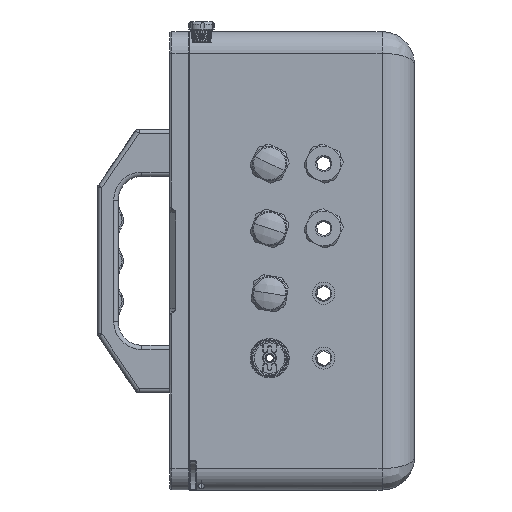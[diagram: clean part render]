
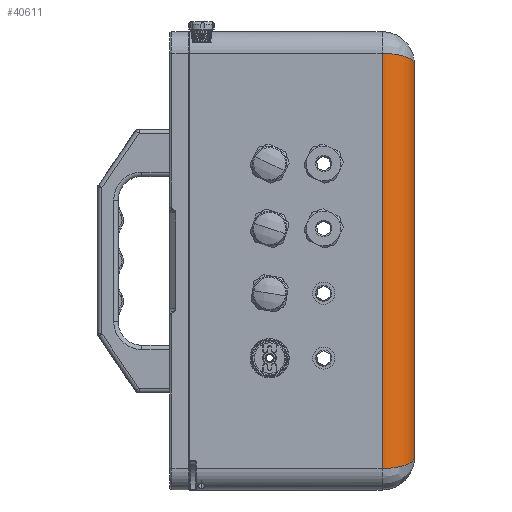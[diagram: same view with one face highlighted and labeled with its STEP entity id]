
A CAD part, left-side view. The second image highlights one B-rep face of the part: STEP entity #40611.
In plain terms, the highlighted cylindrical face has radius 15 mm (diameter 30 mm), a partial arc.
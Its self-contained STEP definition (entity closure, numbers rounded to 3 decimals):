
#17 = CARTESIAN_POINT ( 'NONE',  ( -161., -7., -96. ) ) ;
#572 = CARTESIAN_POINT ( 'NONE',  ( -161., -7., 0. ) ) ;
#1966 =( BOUNDED_CURVE ( )  B_SPLINE_CURVE ( 3, ( #40769, #5874, #50085, #17 ),
 .UNSPECIFIED., .F., .F. ) 
 B_SPLINE_CURVE_WITH_KNOTS ( ( 4, 4 ),
 ( 1.571, 3.142 ),
 .UNSPECIFIED. ) 
 CURVE ( )  GEOMETRIC_REPRESENTATION_ITEM ( )  RATIONAL_B_SPLINE_CURVE ( ( 1., 0.805, 0.805, 1. ) ) 
 REPRESENTATION_ITEM ( '' )  );
#2413 = VERTEX_POINT ( 'NONE', #56465 ) ;
#3876 = VECTOR ( 'NONE', #18520, 1000. ) ;
#4748 =( BOUNDED_CURVE ( )  B_SPLINE_CURVE ( 3, ( #27754, #32204, #36295, #31913 ),
 .UNSPECIFIED., .F., .F. ) 
 B_SPLINE_CURVE_WITH_KNOTS ( ( 4, 4 ),
 ( 1.571, 3.142 ),
 .UNSPECIFIED. ) 
 CURVE ( )  GEOMETRIC_REPRESENTATION_ITEM ( )  RATIONAL_B_SPLINE_CURVE ( ( 1., 0.805, 0.805, 1. ) ) 
 REPRESENTATION_ITEM ( '' )  );
#5874 = CARTESIAN_POINT ( 'NONE',  ( -154.787, -22., -93.929 ) ) ;
#8312 = VECTOR ( 'NONE', #23832, 1000. ) ;
#8409 = FACE_OUTER_BOUND ( 'NONE', #45392, .T. ) ;
#9679 = LINE ( 'NONE', #572, #3876 ) ;
#10357 = CARTESIAN_POINT ( 'NONE',  ( -161., -7., 96. ) ) ;
#13689 = VERTEX_POINT ( 'NONE', #57208 ) ;
#15230 = ORIENTED_EDGE ( 'NONE', *, *, #27368, .T. ) ;
#17797 = ORIENTED_EDGE ( 'NONE', *, *, #41305, .F. ) ;
#18520 = DIRECTION ( 'NONE',  ( 0., 0., 1. ) ) ;
#20812 = CARTESIAN_POINT ( 'NONE',  ( -146., -7., -96. ) ) ;
#23832 = DIRECTION ( 'NONE',  ( 0., 0., -1. ) ) ;
#24408 = LINE ( 'NONE', #42268, #8312 ) ;
#25661 = ORIENTED_EDGE ( 'NONE', *, *, #55171, .F. ) ;
#25961 = DIRECTION ( 'NONE',  ( 0., 0., -1. ) ) ;
#27368 = EDGE_CURVE ( 'NONE', #13689, #53787, #4748, .T. ) ;
#27754 = CARTESIAN_POINT ( 'NONE',  ( -146., -22., 91. ) ) ;
#31913 = CARTESIAN_POINT ( 'NONE',  ( -161., -7., 96. ) ) ;
#32204 = CARTESIAN_POINT ( 'NONE',  ( -154.787, -22., 93.929 ) ) ;
#32392 = EDGE_CURVE ( 'NONE', #13689, #49072, #24408, .T. ) ;
#34503 = CYLINDRICAL_SURFACE ( 'NONE', #53437, 15. ) ;
#36295 = CARTESIAN_POINT ( 'NONE',  ( -161., -15.787, 96. ) ) ;
#40458 = CARTESIAN_POINT ( 'NONE',  ( -146., -22., -91. ) ) ;
#40611 = ADVANCED_FACE ( 'NONE', ( #8409 ), #34503, .T. ) ;
#40769 = CARTESIAN_POINT ( 'NONE',  ( -146., -22., -91. ) ) ;
#41305 = EDGE_CURVE ( 'NONE', #2413, #53787, #9679, .T. ) ;
#42268 = CARTESIAN_POINT ( 'NONE',  ( -146., -22., -96. ) ) ;
#45392 = EDGE_LOOP ( 'NONE', ( #15230, #17797, #25661, #54969 ) ) ;
#49072 = VERTEX_POINT ( 'NONE', #40458 ) ;
#50085 = CARTESIAN_POINT ( 'NONE',  ( -161., -15.787, -96. ) ) ;
#52666 = DIRECTION ( 'NONE',  ( -1., 0., 0. ) ) ;
#53437 = AXIS2_PLACEMENT_3D ( 'NONE', #20812, #25961, #52666 ) ;
#53787 = VERTEX_POINT ( 'NONE', #10357 ) ;
#54969 = ORIENTED_EDGE ( 'NONE', *, *, #32392, .F. ) ;
#55171 = EDGE_CURVE ( 'NONE', #49072, #2413, #1966, .T. ) ;
#56465 = CARTESIAN_POINT ( 'NONE',  ( -161., -7., -96. ) ) ;
#57208 = CARTESIAN_POINT ( 'NONE',  ( -146., -22., 91. ) ) ;
